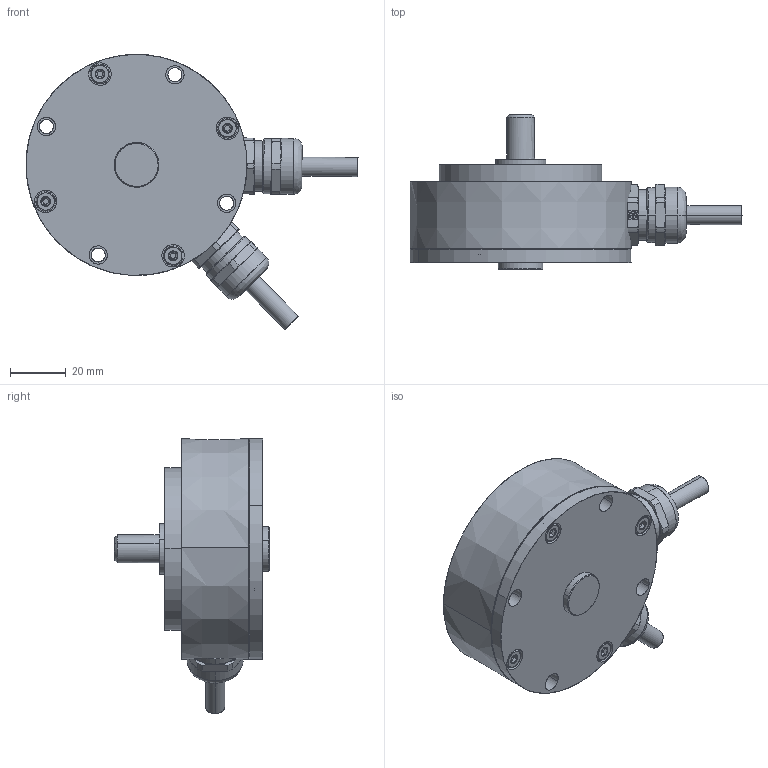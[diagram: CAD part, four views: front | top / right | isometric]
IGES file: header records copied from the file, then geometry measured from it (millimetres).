
Start section: SolidWorks IGES file using analytic representation for surfaces
Global section: file name: E:\Widmaier\3D-Daten\IPX\IPX-7943-_ _ _-_ _ _-302.IGS; native system: SolidWorks 2014; preprocessor: SolidWorks 2014; author: thiel; date: 170914.110728; units: millimetre
Bounding box: 118.63 x 55.5 x 98.36 mm (x, y, z)
Surface area: 26844.7 mm2 (no closed solid volume)
Topology: 0 solids, 0 shells, 257 faces, 4160 edges, 4158 vertices
Faces by surface type: revolution 165, bspline 92
